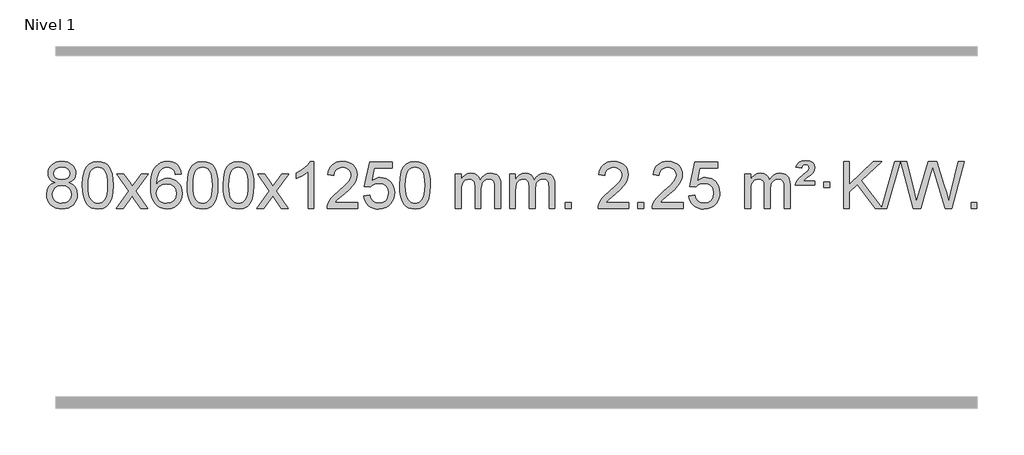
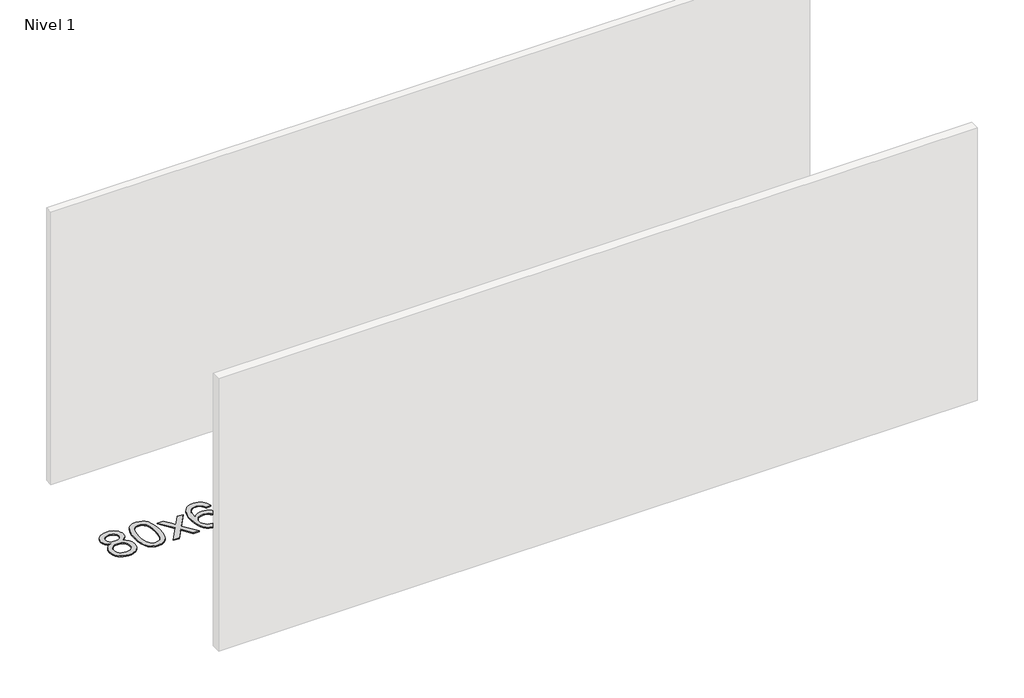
# One storey, part 3 of 6: 1 proxy.
"""IFC4 building model written with IfcOpenShell, lengths in millimetres."""

from ifc_helpers import new_model, si_unit, origin, origin_with_axes, place, context, project, spatial, polyline, outline, extrude, element, save

model = new_model("IFC4")

# Units and contexts
model_context = context("Model", 3, world=origin())
ifc_project = project(units=[si_unit("LENGTHUNIT", "METRE", prefix="MILLI")], contexts=[model_context])

# Site, building, storey
site = spatial("IfcSite", under=ifc_project)
building = spatial("IfcBuilding", under=site)
storey = spatial("IfcBuildingStorey", under=building, Name="Nivel 1", Elevation=0.0)

# Proxy
placement = place(None, origin())
element("IfcBuildingElementProxy", 1, Name="Texto de modelo 1", ObjectType="Texto de modelo 1", at=placement, inside=storey, context=model_context, shape_type="SweptSolid", body=[
    extrude(outline(polyline([(-6536.8094438, -6174.2616447), (-6563.7016177, -6161.0178929), (-6582.573964, -6143.0652515), (-6593.7207885, -6120.7716026), (-6597.4363966, -6094.5048281), (-6595.4130456, -6074.0199324), (-6589.3429927, -6055.2395565), (-6579.2262378, -6038.1637006), (-6565.062781, -6022.7923645), (-6547.533204, -6010.088173), (-6527.3180883, -6001.0137504), (-6504.4174341, -5995.5690969), (-6478.8312414, -5993.7542124), (-6453.1224213, -5995.6120165), (-6430.0500888, -6001.1854287), (-6409.614244, -6010.4744491), (-6391.8148868, -6023.4790776), (-6377.3939126, -6039.1508506), (-6367.0932167, -6056.4413044), (-6360.9127992, -6075.3504389), (-6358.85266, -6095.8782543), (-6362.5192172, -6121.2989001), (-6373.5188889, -6143.2124043), (-6391.9743023, -6161.0546811), (-6418.0080848, -6174.2616447), (-6387.0937345, -6190.1909351), (-6364.5916191, -6213.6495436), (-6350.8696207, -6243.5092989), (-6346.2956212, -6278.6420295), (-6348.5642269, -6303.6947933), (-6355.3700438, -6326.6628926), (-6366.713072, -6347.5463272), (-6382.5933114, -6366.3450971), (-6402.1768963, -6381.88198), (-6424.6299607, -6392.9797536), (-6449.9525047, -6399.6384177), (-6478.1445283, -6401.8579724), (-6506.3365519, -6399.6292206), (-6531.6590959, -6392.9429654), (-6554.1121603, -6381.7992066), (-6573.6957452, -6366.1979443), (-6589.5759846, -6347.26735), (-6600.9190128, -6326.135595), (-6607.7248297, -6302.8026795), (-6609.9934354, -6277.2686033), (-6605.2354949, -6240.7747094), (-6590.9616735, -6210.7555386), (-6567.9077351, -6188.2411605), (-6536.8094438, -6174.2616447)]), holes=[polyline([(-6547.2082415, -6095.9763561), (-6542.7568694, -6117.902123), (-6529.402753, -6135.413306), (-6507.5382997, -6146.8912243), (-6477.5559171, -6150.717197), (-6448.2725103, -6146.9157497), (-6426.7391508, -6135.5114079), (-6413.495399, -6118.5888361), (-6409.0808151, -6098.232699), (-6413.6425518, -6077.1040098), (-6427.327762, -6059.629615), (-6449.1554271, -6047.8941794), (-6478.1445283, -6043.9823675), (-6507.3175705, -6047.8083402), (-6529.1084474, -6059.2862585), (-6542.683293, -6076.1107284), (-6547.2082415, -6095.9763561)]), polyline([(-6559.7652803, -6275.5027698), (-6557.6683529, -6294.7184726), (-6551.3775708, -6313.3210389), (-6539.7647625, -6329.5446349), (-6521.7017565, -6341.623427), (-6500.0702952, -6349.1282197), (-6477.7521208, -6351.6298173), (-6443.5636208, -6346.3691048), (-6429.6699441, -6339.7932141), (-6417.909983, -6330.5869672), (-6401.870328, -6306.6869002), (-6396.5237763, -6277.0723996), (-6402.0420062, -6246.9551269), (-6418.596696, -6222.5277625), (-6430.6754882, -6213.0854579), (-6444.838945, -6206.3409547), (-6479.4198526, -6200.9453521), (-6513.130106, -6206.2673783), (-6526.8674329, -6212.919911), (-6538.5262264, -6222.2334569), (-6554.4555168, -6246.1948375), (-6559.7652803, -6275.5027698)])]), origin_with_axes(), (0.0, 0.0, 1.0), 10.0),
    extrude(outline(polyline([(-6302.3459855, -6197.9041943), (-6298.6549029, -6133.5861588), (-6287.5816548, -6082.2911459), (-6269.236606, -6043.2343407), (-6257.378543, -6028.0009605), (-6243.730121, -6015.6309284), (-6228.2453547, -6006.0598651), (-6210.8782588, -5999.2233914), (-6170.4970785, -5993.7542124), (-6139.5459399, -5996.991574), (-6111.832163, -6006.7036586), (-6088.6555973, -6022.5103217), (-6071.3160926, -6044.0314184), (-6058.2194935, -6071.0830078), (-6047.7716449, -6103.4811488), (-6040.9290398, -6144.6226186), (-6038.6481714, -6197.9041943), (-6042.3024659, -6261.8543477), (-6053.2653493, -6313.0267333), (-6071.5000336, -6352.1203266), (-6083.3305054, -6367.3996922), (-6096.9697304, -6379.8341036), (-6112.4728908, -6389.4695462), (-6129.8951689, -6396.3520052), (-6170.4970785, -6401.8579724), (-6198.1618045, -6399.4667394), (-6222.6872709, -6392.2930405), (-6244.0734775, -6380.3368757), (-6262.3204245, -6363.5982449), (-6279.8316074, -6333.3399508), (-6292.3395953, -6295.6381776), (-6299.844388, -6250.4929255), (-6302.3459855, -6197.9041943)]), holes=[polyline([(-6252.1178305, -6197.8060924), (-6250.6463025, -6241.4706195), (-6246.2317185, -6276.8148822), (-6238.8740786, -6303.8388804), (-6228.5733828, -6322.5426142), (-6216.1144459, -6335.2682656), (-6202.2820829, -6344.3580165), (-6187.0762937, -6349.8118671), (-6170.4970785, -6351.6298173), (-6153.9178632, -6349.8057357), (-6138.7120741, -6344.3334911), (-6124.8797111, -6335.2130833), (-6112.4207742, -6322.4445124), (-6102.1200783, -6303.7101217), (-6094.7624384, -6276.6922549), (-6090.3478545, -6241.3909118), (-6088.8763265, -6197.8060924), (-6090.2988035, -6155.2973278), (-6094.5662347, -6120.5753989), (-6101.6786199, -6093.6403055), (-6111.6359592, -6074.4920476), (-6123.8864297, -6061.1440625), (-6137.8782082, -6051.6097875), (-6153.6112949, -6045.8892225), (-6171.0856897, -6043.9823675), (-6187.5790658, -6045.6623619), (-6202.5273375, -6050.7023452), (-6215.9305049, -6059.1023175), (-6227.7885679, -6070.8622786), (-6238.4326203, -6091.708925), (-6246.0355148, -6119.8151094), (-6250.5972516, -6155.1808319), (-6252.1178305, -6197.8060924)])]), origin_with_axes(), (0.0, 0.0, 1.0), 10.0),
    extrude(outline(polyline([(-6013.5340939, -6395.579453), (-5906.2106531, -6247.2494325), (-6007.2555745, -6100.4890419), (-5946.8248254, -6100.4890419), (-5898.0681983, -6171.122385), (-5875.3085655, -6204.4770192), (-5855.5900906, -6177.2047007), (-5800.0644348, -6100.4890419), (-5739.6336857, -6100.4890419), (-5845.7799041, -6247.2494325), (-5743.5577603, -6395.579453), (-5803.9885094, -6395.579453), (-5865.498379, -6306.4048574), (-5876.7800935, -6290.1199477), (-5953.1033448, -6395.579453), (-6013.5340939, -6395.579453)])), origin_with_axes(), (0.0, 0.0, 1.0), 10.0),
    extrude(outline(polyline([(-5454.7458687, -6100.4890419), (-5504.9740237, -6106.7675613), (-5513.0674276, -6081.874213), (-5524.0057856, -6064.8780648), (-5546.7899439, -6049.2062918), (-5574.3320426, -6043.9823675), (-5597.6802865, -6047.0235253), (-5619.6551044, -6056.1469988), (-5638.5274507, -6075.3627017), (-5653.9417063, -6101.8134171), (-5664.3527668, -6139.227016), (-5668.2155277, -6191.3313693), (-5648.0678571, -6167.8237098), (-5623.9225355, -6151.2567573), (-5597.1284635, -6141.434308), (-5569.0345418, -6138.1601582), (-5544.9014829, -6140.398107), (-5522.6323595, -6147.1119534), (-5502.2271715, -6158.3016975), (-5483.6859189, -6173.9673391), (-5468.2777947, -6193.1769106), (-5457.2719917, -6214.9984443), (-5450.6685099, -6239.4319401), (-5448.4673493, -6266.4773982), (-5452.6121531, -6302.4439945), (-5465.0465645, -6335.786366), (-5484.740514, -6364.0642287), (-5510.6639319, -6384.8372987), (-5541.6395959, -6397.602804), (-5576.4902836, -6401.8579724), (-5606.4328123, -6399.0375437), (-5633.4752046, -6390.5762579), (-5657.6174606, -6376.4741147), (-5678.8595801, -6356.7311143), (-5696.177625, -6330.5133908), (-5708.5476571, -6296.9870783), (-5715.9696764, -6256.1521768), (-5718.4436828, -6208.0086864), (-5715.6968306, -6154.0342663), (-5707.4562739, -6107.9693092), (-5693.7220127, -6069.8138149), (-5674.4940471, -6039.5677835), (-5653.6535321, -6019.5243462), (-5629.4898164, -6005.2076052), (-5602.0029, -5996.6175606), (-5571.1927829, -5993.7542124), (-5548.0591367, -5995.5261773), (-5527.1205198, -6000.8420722), (-5508.3769322, -6009.7018969), (-5491.8283738, -6022.1056515), (-5477.9224344, -6037.6364031), (-5467.1067037, -6055.8772186), (-5459.3811818, -6076.8280983), (-5454.7458687, -6100.4890419)]), holes=[polyline([(-5668.2155277, -6265.6925832), (-5665.30926, -6287.9494439), (-5656.5904567, -6309.2007605), (-5643.0523993, -6327.472233), (-5625.6883691, -6340.7895612), (-5604.7313581, -6348.9197533), (-5580.4143582, -6351.6298173), (-5547.2681904, -6346.0134855), (-5533.353054, -6338.9930708), (-5521.2098825, -6329.1644901), (-5511.359842, -6316.9262824), (-5504.3240989, -6302.6769865), (-5498.6955043, -6268.1451299), (-5504.2505225, -6234.9989621), (-5511.1942951, -6221.3781312), (-5520.9155769, -6209.725469), (-5533.0955366, -6200.3904634), (-5547.4153432, -6193.7226022), (-5582.4744974, -6188.3883133), (-5615.5716142, -6193.7226022), (-5643.248603, -6209.725469), (-5654.1716326, -6221.2248471), (-5661.9737965, -6234.3858254), (-5666.6550949, -6249.2084042), (-5668.2155277, -6265.6925832)])]), origin_with_axes(), (0.0, 0.0, 1.0), 10.0),
    extrude(outline(polyline([(-5404.5177136, -6197.9041943), (-5400.8266309, -6133.5861588), (-5389.7533828, -6082.2911459), (-5371.408334, -6043.2343407), (-5359.550271, -6028.0009605), (-5345.901849, -6015.6309284), (-5330.4170827, -6006.0598651), (-5313.0499869, -5999.2233914), (-5272.6688065, -5993.7542124), (-5241.717668, -5996.991574), (-5214.003891, -6006.7036586), (-5190.8273253, -6022.5103217), (-5173.4878206, -6044.0314184), (-5160.3912216, -6071.0830078), (-5149.9433729, -6103.4811488), (-5143.1007678, -6144.6226186), (-5140.8198994, -6197.9041943), (-5144.4741939, -6261.8543477), (-5155.4370774, -6313.0267333), (-5173.6717616, -6352.1203266), (-5185.5022334, -6367.3996922), (-5199.1414584, -6379.8341036), (-5214.6446188, -6389.4695462), (-5232.066897, -6396.3520052), (-5272.6688065, -6401.8579724), (-5300.3335326, -6399.4667394), (-5324.8589989, -6392.2930405), (-5346.2452055, -6380.3368757), (-5364.4921525, -6363.5982449), (-5382.0033355, -6333.3399508), (-5394.5113233, -6295.6381776), (-5402.016116, -6250.4929255), (-5404.5177136, -6197.9041943)]), holes=[polyline([(-5354.2895585, -6197.8060924), (-5352.8180305, -6241.4706195), (-5348.4034466, -6276.8148822), (-5341.0458067, -6303.8388804), (-5330.7451108, -6322.5426142), (-5318.2861739, -6335.2682656), (-5304.4538109, -6344.3580165), (-5289.2480218, -6349.8118671), (-5272.6688065, -6351.6298173), (-5256.0895913, -6349.8057357), (-5240.8838021, -6344.3334911), (-5227.0514391, -6335.2130833), (-5214.5925022, -6322.4445124), (-5204.2918063, -6303.7101217), (-5196.9341664, -6276.6922549), (-5192.5195825, -6241.3909118), (-5191.0480545, -6197.8060924), (-5192.4705316, -6155.2973278), (-5196.7379627, -6120.5753989), (-5203.8503479, -6093.6403055), (-5213.8076873, -6074.4920476), (-5226.0581577, -6061.1440625), (-5240.0499363, -6051.6097875), (-5255.7830229, -6045.8892225), (-5273.2574177, -6043.9823675), (-5289.7507938, -6045.6623619), (-5304.6990656, -6050.7023452), (-5318.1022329, -6059.1023175), (-5329.9602959, -6070.8622786), (-5340.6043483, -6091.708925), (-5348.2072429, -6119.8151094), (-5352.7689796, -6155.1808319), (-5354.2895585, -6197.8060924)])]), origin_with_axes(), (0.0, 0.0, 1.0), 10.0),
    extrude(outline(polyline([(-5096.8702638, -6197.9041943), (-5093.1791811, -6133.5861588), (-5082.105933, -6082.2911459), (-5063.7608842, -6043.2343407), (-5051.9028212, -6028.0009605), (-5038.2543992, -6015.6309284), (-5022.7696329, -6006.0598651), (-5005.402537, -5999.2233914), (-4965.0213567, -5993.7542124), (-4934.0702182, -5996.991574), (-4906.3564412, -6006.7036586), (-4883.1798755, -6022.5103217), (-4865.8403708, -6044.0314184), (-4852.7437718, -6071.0830078), (-4842.2959231, -6103.4811488), (-4835.453318, -6144.6226186), (-4833.1724496, -6197.9041943), (-4836.8267441, -6261.8543477), (-4847.7896275, -6313.0267333), (-4866.0243118, -6352.1203266), (-4877.8547836, -6367.3996922), (-4891.4940086, -6379.8341036), (-4906.997169, -6389.4695462), (-4924.4194471, -6396.3520052), (-4965.0213567, -6401.8579724), (-4992.6860827, -6399.4667394), (-5017.2115491, -6392.2930405), (-5038.5977557, -6380.3368757), (-5056.8447027, -6363.5982449), (-5074.3558856, -6333.3399508), (-5086.8638735, -6295.6381776), (-5094.3686662, -6250.4929255), (-5096.8702638, -6197.9041943)]), holes=[polyline([(-5046.6421087, -6197.8060924), (-5045.1705807, -6241.4706195), (-5040.7559968, -6276.8148822), (-5033.3983568, -6303.8388804), (-5023.097661, -6322.5426142), (-5010.6387241, -6335.2682656), (-4996.8063611, -6344.3580165), (-4981.6005719, -6349.8118671), (-4965.0213567, -6351.6298173), (-4948.4421414, -6349.8057357), (-4933.2363523, -6344.3334911), (-4919.4039893, -6335.2130833), (-4906.9450524, -6322.4445124), (-4896.6443565, -6303.7101217), (-4889.2867166, -6276.6922549), (-4884.8721327, -6241.3909118), (-4883.4006047, -6197.8060924), (-4884.8230817, -6155.2973278), (-4889.0905129, -6120.5753989), (-4896.2028981, -6093.6403055), (-4906.1602375, -6074.4920476), (-4918.4107079, -6061.1440625), (-4932.4024864, -6051.6097875), (-4948.1355731, -6045.8892225), (-4965.6099679, -6043.9823675), (-4982.103344, -6045.6623619), (-4997.0516157, -6050.7023452), (-5010.4547831, -6059.1023175), (-5022.3128461, -6070.8622786), (-5032.9568985, -6091.708925), (-5040.559793, -6119.8151094), (-5045.1215298, -6155.1808319), (-5046.6421087, -6197.8060924)])]), origin_with_axes(), (0.0, 0.0, 1.0), 10.0),
    extrude(outline(polyline([(-4808.0583721, -6395.579453), (-4700.7349313, -6247.2494325), (-4801.7798527, -6100.4890419), (-4741.3491036, -6100.4890419), (-4692.5924765, -6171.122385), (-4669.8328437, -6204.4770192), (-4650.1143688, -6177.2047007), (-4594.588713, -6100.4890419), (-4534.1579639, -6100.4890419), (-4640.3041823, -6247.2494325), (-4538.0820385, -6395.579453), (-4598.5127876, -6395.579453), (-4660.0226572, -6306.4048574), (-4671.3043717, -6290.1199477), (-4747.627623, -6395.579453), (-4808.0583721, -6395.579453)])), origin_with_axes(), (0.0, 0.0, 1.0), 10.0),
    extrude(outline(polyline([(-4318.3338601, -6395.579453), (-4368.5620152, -6395.579453), (-4368.5620152, -6082.4382987), (-4389.5312889, -6099.3976587), (-4416.1414199, -6116.3324932), (-4469.0183253, -6141.6918254), (-4469.0183253, -6094.2105225), (-4429.5691127, -6072.7507395), (-4395.3928753, -6047.219729), (-4368.4516506, -6020.0700378), (-4350.7074757, -5993.7542124), (-4318.3338601, -5993.7542124), (-4318.3338601, -6395.579453)])), origin_with_axes(), (0.0, 0.0, 1.0), 10.0),
    extrude(outline(polyline([(-3941.622697, -6345.3512979), (-3941.622697, -6395.579453), (-4205.3205112, -6395.579453), (-4204.2168652, -6377.8965918), (-4199.9249086, -6360.9494945), (-4187.5395481, -6333.8856424), (-4169.4152284, -6307.6311307), (-4143.1975049, -6280.1503456), (-4106.5319327, -6249.4076736), (-4052.3306521, -6201.2641831), (-4019.8098837, -6165.7267824), (-4003.5494996, -6136.884834), (-3998.1293715, -6108.8277005), (-4003.2429312, -6083.6768347), (-4018.5836104, -6062.7688747), (-4042.1648463, -6048.6789943), (-4072.0000761, -6043.9823675), (-4103.3313594, -6048.5686297), (-4127.6728847, -6062.3274163), (-4143.3814459, -6084.1796068), (-4148.8138367, -6113.0460807), (-4199.0419918, -6106.7675613), (-4194.722444, -6080.838012), (-4186.8650977, -6058.1826125), (-4175.4699529, -6038.8013627), (-4160.5370096, -6022.6942627), (-4142.4096243, -6010.0329907), (-4121.4311535, -6000.989225), (-4097.6015973, -5995.5629655), (-4070.9209556, -5993.7542124), (-4044.0011906, -5995.7653006), (-4020.0428757, -6001.7985654), (-3999.0460108, -6011.8540066), (-3981.010596, -6025.9316242), (-3966.5252424, -6042.9890861), (-3956.1785613, -6061.9840598), (-3949.9705526, -6082.9165453), (-3947.9012164, -6105.7865427), (-3950.1330339, -6129.8092369), (-3956.8284862, -6153.4149983), (-3968.7110746, -6177.4254299), (-3986.5043004, -6202.6621347), (-4014.8680023, -6232.7916701), (-4058.4620187, -6271.4805933), (-4116.2440174, -6319.795762), (-4138.9055483, -6345.3512979), (-3941.622697, -6345.3512979)])), origin_with_axes(), (0.0, 0.0, 1.0), 10.0),
    extrude(outline(polyline([(-3891.394542, -6288.8446235), (-3841.1663869, -6282.5661041), (-3831.9448115, -6312.7201649), (-3815.8561056, -6334.3148381), (-3792.9738455, -6347.3010725), (-3763.3716076, -6351.6298173), (-3744.2417439, -6350.1245668), (-3727.368223, -6345.6088153), (-3712.7510451, -6338.0825628), (-3700.3902101, -6327.5458094), (-3690.5616294, -6314.519721), (-3683.5412147, -6299.5254641), (-3677.9248829, -6263.6324441), (-3683.1855954, -6229.8363514), (-3689.7614861, -6215.9181493), (-3698.967733, -6203.9865099), (-3710.834993, -6194.4154467), (-3725.393923, -6187.5789729), (-3762.5867927, -6182.1097939), (-3786.9528435, -6184.2925604), (-3806.6835812, -6190.8408599), (-3822.4411933, -6200.8717757), (-3834.8878675, -6213.5023908), (-3885.1160226, -6207.2238715), (-3841.1663869, -6000.0327318), (-3646.532286, -6000.0327318), (-3646.532286, -6050.2608869), (-3800.5522146, -6050.2608869), (-3822.0365231, -6160.919791), (-3804.3107423, -6148.2155994), (-3786.1557659, -6139.1411769), (-3767.5715937, -6133.6965234), (-3748.558226, -6131.8816388), (-3724.097139, -6134.1318504), (-3701.6287461, -6140.882485), (-3681.1530474, -6152.1335427), (-3662.6700428, -6167.8850234), (-3647.3692175, -6187.1743027), (-3636.4400566, -6209.038756), (-3629.88256, -6233.4783832), (-3627.6967278, -6260.4931844), (-3629.6648965, -6286.5147042), (-3635.5694025, -6310.7213394), (-3645.4102459, -6333.1130902), (-3659.1874266, -6353.6899565), (-3680.0585985, -6374.7634634), (-3704.4123865, -6389.8159684), (-3732.2487908, -6398.8474714), (-3763.5678114, -6401.8579724), (-3789.4881636, -6399.9235262), (-3812.9007869, -6394.1201877), (-3833.8056813, -6384.447957), (-3852.2028467, -6370.9068338), (-3867.5098034, -6354.1712688), (-3879.1440715, -6334.915712), (-3887.105651, -6313.1401636), (-3891.394542, -6288.8446235)])), origin_with_axes(), (0.0, 0.0, 1.0), 10.0),
    extrude(outline(polyline([(-3583.7470921, -6197.9041943), (-3580.0560094, -6133.5861588), (-3568.9827614, -6082.2911459), (-3550.6377126, -6043.2343407), (-3538.7796496, -6028.0009605), (-3525.1312276, -6015.6309284), (-3509.6464612, -6006.0598651), (-3492.2793654, -5999.2233914), (-3451.8981851, -5993.7542124), (-3420.9470465, -5996.991574), (-3393.2332696, -6006.7036586), (-3370.0567039, -6022.5103217), (-3352.7171992, -6044.0314184), (-3339.6206001, -6071.0830078), (-3329.1727515, -6103.4811488), (-3322.3301463, -6144.6226186), (-3320.049278, -6197.9041943), (-3323.7035725, -6261.8543477), (-3334.6664559, -6313.0267333), (-3352.9011401, -6352.1203266), (-3364.731612, -6367.3996922), (-3378.3708369, -6379.8341036), (-3393.8739974, -6389.4695462), (-3411.2962755, -6396.3520052), (-3451.8981851, -6401.8579724), (-3479.5629111, -6399.4667394), (-3504.0883774, -6392.2930405), (-3525.4745841, -6380.3368757), (-3543.721531, -6363.5982449), (-3561.232714, -6333.3399508), (-3573.7407019, -6295.6381776), (-3581.2454946, -6250.4929255), (-3583.7470921, -6197.9041943)]), holes=[polyline([(-3533.518937, -6197.8060924), (-3532.0474091, -6241.4706195), (-3527.6328251, -6276.8148822), (-3520.2751852, -6303.8388804), (-3509.9744894, -6322.5426142), (-3497.5155525, -6335.2682656), (-3483.6831894, -6344.3580165), (-3468.4774003, -6349.8118671), (-3451.8981851, -6351.6298173), (-3435.3189698, -6349.8057357), (-3420.1131807, -6344.3334911), (-3406.2808176, -6335.2130833), (-3393.8218807, -6322.4445124), (-3383.5211849, -6303.7101217), (-3376.163545, -6276.6922549), (-3371.748961, -6241.3909118), (-3370.2774331, -6197.8060924), (-3371.6999101, -6155.2973278), (-3375.9673412, -6120.5753989), (-3383.0797265, -6093.6403055), (-3393.0370658, -6074.4920476), (-3405.2875363, -6061.1440625), (-3419.2793148, -6051.6097875), (-3435.0124015, -6045.8892225), (-3452.4867962, -6043.9823675), (-3468.9801724, -6045.6623619), (-3483.9284441, -6050.7023452), (-3497.3316115, -6059.1023175), (-3509.1896744, -6070.8622786), (-3519.8337268, -6091.708925), (-3527.4366214, -6119.8151094), (-3531.9983581, -6155.1808319), (-3533.518937, -6197.8060924)])]), origin_with_axes(), (0.0, 0.0, 1.0), 10.0),
    extrude(outline(polyline([(-3106.5796189, -6395.579453), (-3106.5796189, -6100.4890419), (-3056.3514638, -6100.4890419), (-3056.3514638, -6149.0494653), (-3041.2437766, -6126.7435537), (-3021.8196072, -6109.2691589), (-2998.7411434, -6097.9751816), (-2972.6705727, -6094.2105225), (-2944.7360665, -6098.048758), (-2922.3443157, -6109.5634645), (-2905.6179477, -6127.9943524), (-2894.6795897, -6152.5811324), (-2876.3713291, -6127.0439906), (-2855.4878945, -6108.803175), (-2832.0292859, -6097.8586857), (-2805.9955034, -6094.2105225), (-2785.8876867, -6095.7280358), (-2768.2385479, -6100.2805755), (-2753.0480872, -6107.8681416), (-2740.3163045, -6118.4907342), (-2730.2516663, -6132.2709806), (-2723.0626389, -6149.3315082), (-2718.7492225, -6169.6723168), (-2717.3114171, -6193.2934066), (-2717.3114171, -6395.579453), (-2767.5395722, -6395.579453), (-2767.5395722, -6214.875817), (-2768.7045318, -6189.8230531), (-2772.1994108, -6172.9372695), (-2778.7477103, -6161.3735121), (-2789.0729316, -6152.2868268), (-2802.3534716, -6146.4007149), (-2817.7677272, -6144.4386776), (-2844.9787321, -6149.4663982), (-2867.1620165, -6164.54956), (-2875.7673895, -6176.1194488), (-2881.9140845, -6190.7182326), (-2886.8314405, -6229.0024856), (-2886.8314405, -6395.579453), (-2937.0595955, -6395.579453), (-2937.0595955, -6209.2840106), (-2939.9658633, -6180.8835206), (-2948.6846666, -6160.6254854), (-2964.0253458, -6148.4853796), (-2986.7972413, -6144.4386776), (-3006.1478342, -6147.1364789), (-3023.9778483, -6155.2298828), (-3038.6931281, -6168.5226856), (-3048.6995183, -6186.8186835), (-3054.4384775, -6212.2025411), (-3056.3514638, -6246.7589232), (-3056.3514638, -6395.579453), (-3106.5796189, -6395.579453)])), origin_with_axes(), (0.0, 0.0, 1.0), 10.0),
    extrude(outline(polyline([(-2641.9691845, -6395.579453), (-2641.9691845, -6100.4890419), (-2591.7410294, -6100.4890419), (-2591.7410294, -6149.0494653), (-2576.6333421, -6126.7435537), (-2557.2091728, -6109.2691589), (-2534.130709, -6097.9751816), (-2508.0601382, -6094.2105225), (-2480.1256321, -6098.048758), (-2457.7338813, -6109.5634645), (-2441.0075132, -6127.9943524), (-2430.0691552, -6152.5811324), (-2411.7608946, -6127.0439906), (-2390.87746, -6108.803175), (-2367.4188515, -6097.8586857), (-2341.3850689, -6094.2105225), (-2321.2772522, -6095.7280358), (-2303.6281135, -6100.2805755), (-2288.4376528, -6107.8681416), (-2275.7058701, -6118.4907342), (-2265.6412318, -6132.2709806), (-2258.4522045, -6149.3315082), (-2254.1387881, -6169.6723168), (-2252.7009826, -6193.2934066), (-2252.7009826, -6395.579453), (-2302.9291377, -6395.579453), (-2302.9291377, -6214.875817), (-2304.0940974, -6189.8230531), (-2307.5889763, -6172.9372695), (-2314.1372758, -6161.3735121), (-2324.4624972, -6152.2868268), (-2337.7430372, -6146.4007149), (-2353.1572928, -6144.4386776), (-2380.3682977, -6149.4663982), (-2402.551582, -6164.54956), (-2411.156955, -6176.1194488), (-2417.30365, -6190.7182326), (-2422.221006, -6229.0024856), (-2422.221006, -6395.579453), (-2472.4491611, -6395.579453), (-2472.4491611, -6209.2840106), (-2475.3554289, -6180.8835206), (-2484.0742321, -6160.6254854), (-2499.4149113, -6148.4853796), (-2522.1868068, -6144.4386776), (-2541.5373998, -6147.1364789), (-2559.3674138, -6155.2298828), (-2574.0826936, -6168.5226856), (-2584.0890839, -6186.8186835), (-2589.828043, -6212.2025411), (-2591.7410294, -6246.7589232), (-2591.7410294, -6395.579453), (-2641.9691845, -6395.579453)])), origin_with_axes(), (0.0, 0.0, 1.0), 10.0),
    extrude(outline(polyline([(-2164.8017113, -6395.579453), (-2164.8017113, -6345.3512979), (-2114.5735562, -6345.3512979), (-2114.5735562, -6395.579453), (-2164.8017113, -6395.579453)])), origin_with_axes(), (0.0, 0.0, 1.0), 10.0),
    extrude(outline(polyline([(-1618.5705248, -6345.3512979), (-1618.5705248, -6395.579453), (-1882.268339, -6395.579453), (-1881.164693, -6377.8965918), (-1876.8727364, -6360.9494945), (-1864.4873759, -6333.8856424), (-1846.3630562, -6307.6311307), (-1820.1453327, -6280.1503456), (-1783.4797605, -6249.4076736), (-1729.2784799, -6201.2641831), (-1696.7577115, -6165.7267824), (-1680.4973273, -6136.884834), (-1675.0771993, -6108.8277005), (-1680.190759, -6083.6768347), (-1695.5314382, -6062.7688747), (-1719.1126741, -6048.6789943), (-1748.9479039, -6043.9823675), (-1780.2791872, -6048.5686297), (-1804.6207125, -6062.3274163), (-1820.3292737, -6084.1796068), (-1825.7616645, -6113.0460807), (-1875.9898196, -6106.7675613), (-1871.6702718, -6080.838012), (-1863.8129255, -6058.1826125), (-1852.4177807, -6038.8013627), (-1837.4848374, -6022.6942627), (-1819.3574521, -6010.0329907), (-1798.3789813, -6000.989225), (-1774.5494251, -5995.5629655), (-1747.8687834, -5993.7542124), (-1720.9490184, -5995.7653006), (-1696.9907035, -6001.7985654), (-1675.9938386, -6011.8540066), (-1657.9584238, -6025.9316242), (-1643.4730702, -6042.9890861), (-1633.1263891, -6061.9840598), (-1626.9183804, -6082.9165453), (-1624.8490442, -6105.7865427), (-1627.0808616, -6129.8092369), (-1633.776314, -6153.4149983), (-1645.6589024, -6177.4254299), (-1663.4521282, -6202.6621347), (-1691.8158301, -6232.7916701), (-1735.4098465, -6271.4805933), (-1793.1918452, -6319.795762), (-1815.8533761, -6345.3512979), (-1618.5705248, -6345.3512979)])), origin_with_axes(), (0.0, 0.0, 1.0), 10.0),
    extrude(outline(polyline([(-1543.2282922, -6395.579453), (-1543.2282922, -6345.3512979), (-1493.0001371, -6345.3512979), (-1493.0001371, -6395.579453), (-1543.2282922, -6395.579453)])), origin_with_axes(), (0.0, 0.0, 1.0), 10.0),
    extrude(outline(polyline([(-1153.9600904, -6345.3512979), (-1153.9600904, -6395.579453), (-1417.6579045, -6395.579453), (-1416.5542585, -6377.8965918), (-1412.2623019, -6360.9494945), (-1399.8769414, -6333.8856424), (-1381.7526218, -6307.6311307), (-1355.5348983, -6280.1503456), (-1318.8693261, -6249.4076736), (-1264.6680455, -6201.2641831), (-1232.1472771, -6165.7267824), (-1215.8868929, -6136.884834), (-1210.4667648, -6108.8277005), (-1215.5803246, -6083.6768347), (-1230.9210038, -6062.7688747), (-1254.5022397, -6048.6789943), (-1284.3374695, -6043.9823675), (-1315.6687527, -6048.5686297), (-1340.0102781, -6062.3274163), (-1355.7188393, -6084.1796068), (-1361.1512301, -6113.0460807), (-1411.3793851, -6106.7675613), (-1407.0598374, -6080.838012), (-1399.2024911, -6058.1826125), (-1387.8073463, -6038.8013627), (-1372.874403, -6022.6942627), (-1354.7470177, -6010.0329907), (-1333.7685469, -6000.989225), (-1309.9389907, -5995.5629655), (-1283.258349, -5993.7542124), (-1256.338584, -5995.7653006), (-1232.380269, -6001.7985654), (-1211.3834041, -6011.8540066), (-1193.3479893, -6025.9316242), (-1178.8626358, -6042.9890861), (-1168.5159547, -6061.9840598), (-1162.307946, -6082.9165453), (-1160.2386098, -6105.7865427), (-1162.4704272, -6129.8092369), (-1169.1658795, -6153.4149983), (-1181.048468, -6177.4254299), (-1198.8416938, -6202.6621347), (-1227.2053956, -6232.7916701), (-1270.799412, -6271.4805933), (-1328.5814108, -6319.795762), (-1351.2429417, -6345.3512979), (-1153.9600904, -6345.3512979)])), origin_with_axes(), (0.0, 0.0, 1.0), 10.0),
    extrude(outline(polyline([(-1103.7319353, -6288.8446235), (-1053.5037802, -6282.5661041), (-1044.2822049, -6312.7201649), (-1028.193499, -6334.3148381), (-1005.3112389, -6347.3010725), (-975.709001, -6351.6298173), (-956.5791372, -6350.1245668), (-939.7056164, -6345.6088153), (-925.0884384, -6338.0825628), (-912.7276034, -6327.5458094), (-902.8990228, -6314.519721), (-895.878608, -6299.5254641), (-890.2622762, -6263.6324441), (-895.5229888, -6229.8363514), (-902.0988794, -6215.9181493), (-911.3051264, -6203.9865099), (-923.1723864, -6194.4154467), (-937.7313163, -6187.5789729), (-974.9241861, -6182.1097939), (-999.2902369, -6184.2925604), (-1019.0209745, -6190.8408599), (-1034.7785867, -6200.8717757), (-1047.2252608, -6213.5023908), (-1097.4534159, -6207.2238715), (-1053.5037802, -6000.0327318), (-858.8696793, -6000.0327318), (-858.8696793, -6050.2608869), (-1012.889608, -6050.2608869), (-1034.3739165, -6160.919791), (-1016.6481357, -6148.2155994), (-998.4931592, -6139.1411769), (-979.9089871, -6133.6965234), (-960.8956193, -6131.8816388), (-936.4345323, -6134.1318504), (-913.9661395, -6140.882485), (-893.4904407, -6152.1335427), (-875.0074362, -6167.8850234), (-859.7066109, -6187.1743027), (-848.7774499, -6209.038756), (-842.2199533, -6233.4783832), (-840.0341212, -6260.4931844), (-842.0022898, -6286.5147042), (-847.9067959, -6310.7213394), (-857.7476392, -6333.1130902), (-871.5248199, -6353.6899565), (-892.3959918, -6374.7634634), (-916.7497799, -6389.8159684), (-944.5861842, -6398.8474714), (-975.9052047, -6401.8579724), (-1001.825557, -6399.9235262), (-1025.2381803, -6394.1201877), (-1046.1430746, -6384.447957), (-1064.5402401, -6370.9068338), (-1079.8471968, -6354.1712688), (-1091.4814649, -6334.915712), (-1099.4430444, -6313.1401636), (-1103.7319353, -6288.8446235)])), origin_with_axes(), (0.0, 0.0, 1.0), 10.0),
    extrude(outline(polyline([(-626.5644621, -6395.579453), (-626.5644621, -6100.4890419), (-576.336307, -6100.4890419), (-576.336307, -6149.0494653), (-561.2286197, -6126.7435537), (-541.8044504, -6109.2691589), (-518.7259866, -6097.9751816), (-492.6554158, -6094.2105225), (-464.7209097, -6098.048758), (-442.3291589, -6109.5634645), (-425.6027909, -6127.9943524), (-414.6644329, -6152.5811324), (-396.3561722, -6127.0439906), (-375.4727377, -6108.803175), (-352.0141291, -6097.8586857), (-325.9803466, -6094.2105225), (-305.8725298, -6095.7280358), (-288.2233911, -6100.2805755), (-273.0329304, -6107.8681416), (-260.3011477, -6118.4907342), (-250.2365094, -6132.2709806), (-243.0474821, -6149.3315082), (-238.7340657, -6169.6723168), (-237.2962603, -6193.2934066), (-237.2962603, -6395.579453), (-287.5244153, -6395.579453), (-287.5244153, -6214.875817), (-288.689375, -6189.8230531), (-292.1842539, -6172.9372695), (-298.7325535, -6161.3735121), (-309.0577748, -6152.2868268), (-322.3383148, -6146.4007149), (-337.7525704, -6144.4386776), (-364.9635753, -6149.4663982), (-387.1468596, -6164.54956), (-395.7522326, -6176.1194488), (-401.8989276, -6190.7182326), (-406.8162836, -6229.0024856), (-406.8162836, -6395.579453), (-457.0444387, -6395.579453), (-457.0444387, -6209.2840106), (-459.9507065, -6180.8835206), (-468.6695098, -6160.6254854), (-484.010189, -6148.4853796), (-506.7820845, -6144.4386776), (-526.1326774, -6147.1364789), (-543.9626914, -6155.2298828), (-558.6779713, -6168.5226856), (-568.6843615, -6186.8186835), (-574.4233206, -6212.2025411), (-576.336307, -6246.7589232), (-576.336307, -6395.579453), (-626.5644621, -6395.579453)])), origin_with_axes(), (0.0, 0.0, 1.0), 10.0),
    extrude(outline(polyline([(-193.3466246, -6194.6668327), (-189.5206518, -6178.8479069), (-181.1819933, -6162.9799302), (-159.6731593, -6137.8413272), (-127.7164766, -6110.1030247), (-83.5706372, -6072.726214), (-76.4337265, -6061.1992448), (-74.0547563, -6049.3779701), (-75.9432172, -6037.2869152), (-81.6085999, -6027.5012541), (-90.977328, -6021.026531), (-103.9758252, -6018.8682899), (-116.4102366, -6020.4869707), (-125.26393, -6025.343013), (-131.6896022, -6034.8098431), (-136.8399501, -6050.2608869), (-187.0681052, -6043.9823675), (-176.2278491, -6018.7701881), (-159.5995829, -6001.2099542), (-135.834406, -5990.9092583), (-103.5834178, -5987.475693), (-67.8007624, -5991.6082341), (-43.0545668, -6004.0058573), (-28.6335926, -6022.3386434), (-23.8266012, -6044.2766731), (-27.9223541, -6067.1834586), (-40.2096127, -6088.8149199), (-60.737428, -6108.6314968), (-97.2067965, -6136.6886303), (-122.8113834, -6163.2742358), (-23.8266012, -6163.2742358), (-23.8266012, -6194.6668327), (-193.3466246, -6194.6668327)])), origin_with_axes(), (0.0, 0.0, 1.0), 10.0),
    extrude(outline(polyline([(51.5156314, -6219.7809102), (51.5156314, -6169.5527552), (101.7437865, -6169.5527552), (101.7437865, -6219.7809102), (51.5156314, -6219.7809102)])), origin_with_axes(), (0.0, 0.0, 1.0), 10.0),
    extrude(outline(polyline([(492.3854144, -6395.579453), (338.954097, -6192.9009991), (271.2638099, -6257.4520265), (271.2638099, -6395.579453), (221.0356548, -6395.579453), (221.0356548, -5993.7542124), (271.2638099, -5993.7542124), (271.2638099, -6190.4484525), (477.2777272, -5993.7542124), (547.5186628, -5993.7542124), (374.5650741, -6158.9577537), (549.218684, -6389.5349332), (660.5320117, -5993.7542124), (705.8550735, -5993.7542124), (592.8417246, -6395.579453), (553.7971822, -6395.579453), (547.5186628, -6395.579453), (492.3854144, -6395.579453)])), origin_with_axes(), (0.0, 0.0, 1.0), 10.0),
    extrude(outline(polyline([(820.3399504, -6395.579453), (710.7601668, -5993.7542124), (762.5579517, -5993.7542124), (826.1279605, -6257.844434), (845.7483335, -6339.3670841), (866.7421327, -6267.2622131), (946.4008474, -5993.7542124), (1021.056367, -5993.7542124), (1078.9364675, -6192.0180823), (1103.731714, -6265.5944814), (1122.0031864, -6339.3670841), (1141.0349483, -6260.1988788), (1205.1935683, -5993.7542124), (1256.9913532, -5993.7542124), (1147.3134677, -6395.579453), (1093.6517474, -6395.579453), (997.3157155, -6085.5775584), (983.87576, -6042.3146358), (968.7680727, -6094.4067263), (880.9669032, -6395.579453), (820.3399504, -6395.579453)])), origin_with_axes(), (0.0, 0.0, 1.0), 10.0),
    extrude(outline(polyline([(1313.4980277, -6395.579453), (1313.4980277, -6345.3512979), (1363.7261827, -6345.3512979), (1363.7261827, -6395.579453), (1313.4980277, -6395.579453)])), origin_with_axes(), (0.0, 0.0, 1.0), 10.0),
])

save(model, "model.ifc")
